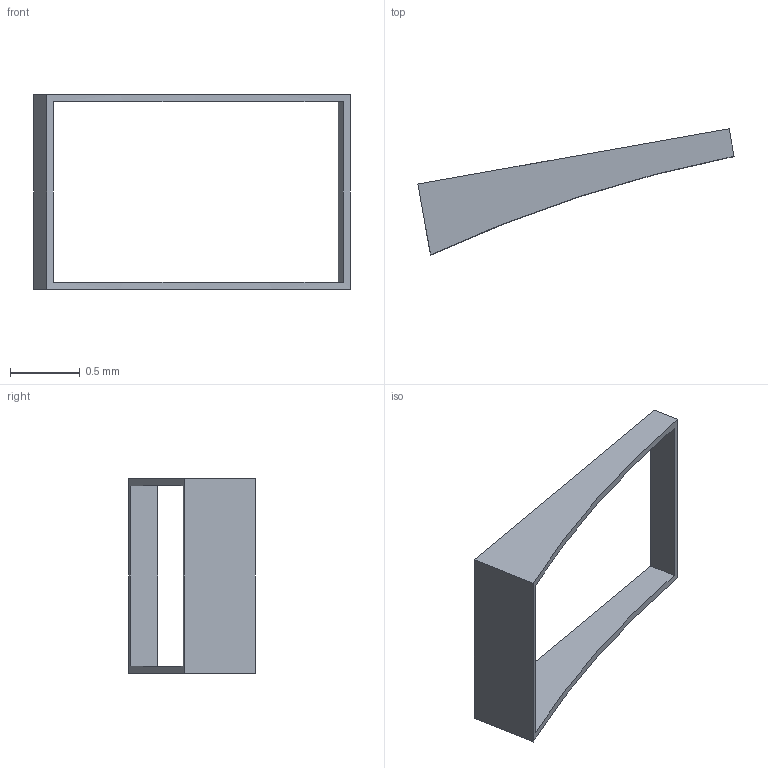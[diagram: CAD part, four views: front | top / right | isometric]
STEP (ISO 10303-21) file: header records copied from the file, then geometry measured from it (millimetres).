
FILE_DESCRIPTION(('FreeCAD Model'),'2;1');
FILE_NAME('Open CASCADE Shape Model','2026-10-23T21:15:57',('FreeCAD'),( 'FreeCAD'),'Open CASCADE STEP processor 7.8','FreeCAD','Unknown');
FILE_SCHEMA(('AUTOMOTIVE_DESIGN { 1 0 10303 214 1 1 1 1 }'));
Length unit declared in the file: millimetre
Products named in the file (1): Open CASCADE STEP translator 7.8 8
Bounding box: 2.27 x 0.91 x 1.39 mm (x, y, z)
Volume: 0.1 mm3; surface area: 5.4 mm2
Topology: 1 solids, 1 shells, 10 faces, 24 edges, 16 vertices
Faces by surface type: plane 9, cylinder 1
Entity records: 306 total; most frequent: CARTESIAN_POINT 51, DIRECTION 50, ORIENTED_EDGE 48, EDGE_CURVE 24, LINE 20, VECTOR 20, VERTEX_POINT 16, AXIS2_PLACEMENT_3D 15
